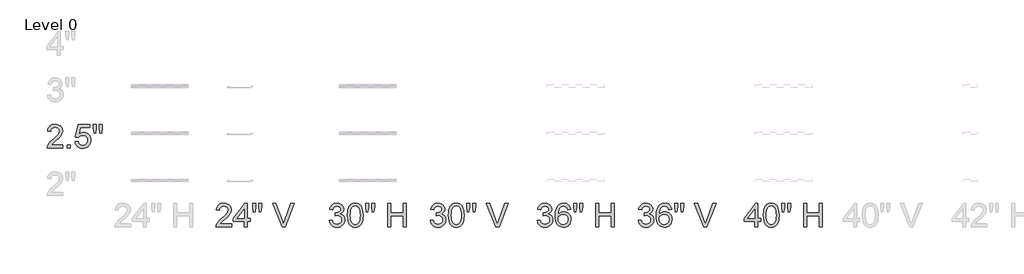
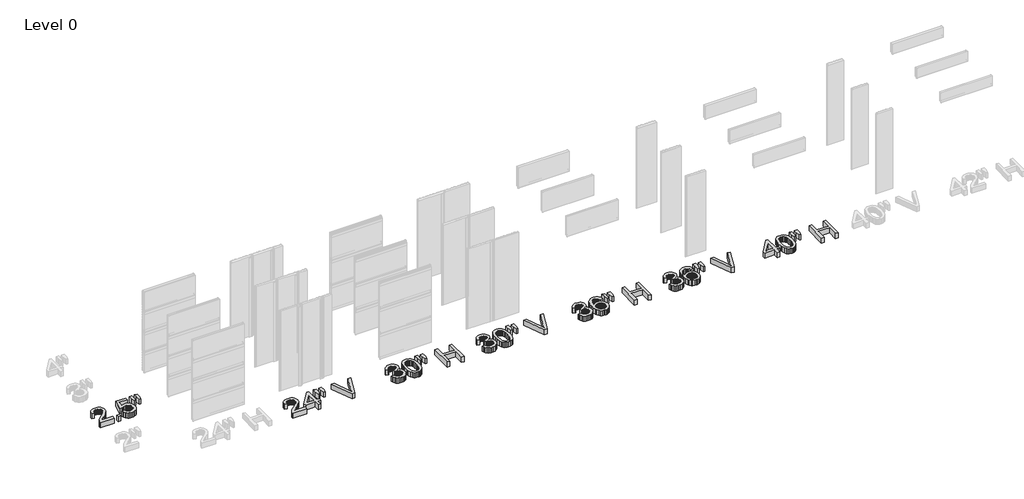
# One storey, part 3 of 5: 7 proxies.
"""IFC4 building model written with IfcOpenShell, lengths in millimetres."""

from ifc_helpers import new_model, si_unit, origin, origin_with_axes, place, context, project, spatial, polyline, outline, extrude, element, save

model = new_model("IFC4")

# Units and contexts
model_context = context("Model", 3, world=origin())
ifc_project = project(units=[si_unit("LENGTHUNIT", "METRE", prefix="MILLI")], contexts=[model_context])

# Site, building, storey
site = spatial("IfcSite", under=ifc_project)
building = spatial("IfcBuilding", under=site)
storey = spatial("IfcBuildingStorey", under=building, Name="Level 0", Elevation=0.0)

# Proxies
placement = place(None, origin())
element("IfcBuildingElementProxy", 1, Name="24\" Arial", ObjectType="24\" Arial", at=placement, inside=storey, context=model_context, shape_type="SweptSolid", body=[
    extrude(outline(polyline([(-32267.664642, 9328.081133), (-32267.664642, 9251.9393595), (-32667.408953, 9251.9393595), (-32665.735916, 9278.7451304), (-32659.2296609, 9304.4355432), (-32640.4544677, 9345.4621287), (-32612.9794821, 9385.2618204), (-32573.2355583, 9426.920442), (-32517.6535508, 9473.5238176), (-32435.488844, 9546.5054101), (-32386.1900199, 9600.377202), (-32371.8111963, 9622.3869334), (-32361.5406079, 9644.099236), (-32355.3782549, 9665.5141098), (-32353.3241372, 9686.6315548), (-32355.2620718, 9706.4988694), (-32361.0758754, 9724.7582095), (-32370.7655481, 9741.4095751), (-32384.3310899, 9756.4529662), (-32401.0196342, 9768.9124447), (-32420.0783142, 9777.8120722), (-32441.5071299, 9783.1518486), (-32465.3060815, 9784.9317741), (-32490.3784001, 9783.1936746), (-32512.8017434, 9777.9793759), (-32532.5761115, 9769.288878), (-32549.7015043, 9757.1221811), (-32563.5551802, 9741.8882496), (-32573.5143978, 9723.9960481), (-32579.579157, 9703.4455768), (-32581.7494578, 9680.2368355), (-32657.8912313, 9689.7545572), (-32651.3431503, 9729.0616324), (-32639.4320562, 9763.4053645), (-32622.157949, 9792.7857534), (-32599.5208288, 9817.2027992), (-32572.0411958, 9836.3962517), (-32540.2395505, 9850.1058605), (-32504.1158929, 9858.3316259), (-32463.6702231, 9861.0735476), (-32422.8620619, 9858.0249024), (-32386.5432167, 9848.8789667), (-32354.7136874, 9833.6357406), (-32327.3734742, 9812.295224), (-32305.4148634, 9786.4375074), (-32289.7301413, 9757.6426815), (-32280.3193081, 9725.9107461), (-32277.1823637, 9691.2417012), (-32280.5656164, 9654.8252622), (-32290.7153742, 9619.0408594), (-32308.7284061, 9582.6430096), (-32335.7014807, 9544.3862299), (-32378.698532, 9498.7123193), (-32444.7834941, 9440.0630773), (-32532.3762765, 9366.8212346), (-32566.7293032, 9328.081133), (-32267.664642, 9328.081133)])), origin_with_axes(), (0.0, 0.0, 1.0), 152.4),
    extrude(outline(polyline([(-32153.4519818, 9251.9393595), (-32153.4519818, 9328.081133), (-32077.3102082, 9328.081133), (-32077.3102082, 9251.9393595), (-32153.4519818, 9251.9393595)])), origin_with_axes(), (0.0, 0.0, 1.0), 152.4),
    extrude(outline(polyline([(-31953.5798263, 9413.7406282), (-31877.4380528, 9423.2583499), (-31871.7497269, 9398.7808889), (-31863.458899, 9377.5472608), (-31852.5655691, 9359.5574655), (-31839.0697372, 9344.8115032), (-31822.9992872, 9333.327963), (-31804.3821031, 9325.1254343), (-31783.2181848, 9320.2039171), (-31759.5075324, 9318.5634113), (-31730.5082242, 9320.8452479), (-31704.9293471, 9327.6907577), (-31682.7709013, 9339.0999407), (-31664.0328867, 9355.0727969), (-31649.1335627, 9374.819281), (-31638.4911883, 9397.5493478), (-31632.1057637, 9423.2629972), (-31629.9772888, 9451.9602294), (-31631.9709913, 9479.0820183), (-31637.9520986, 9503.1923407), (-31647.9206108, 9524.2911964), (-31661.8765279, 9542.3785854), (-31679.8663232, 9556.8875342), (-31701.9364698, 9567.2510691), (-31728.0869678, 9573.46919), (-31758.3178172, 9575.5418969), (-31795.2547567, 9572.2330015), (-31825.1649407, 9562.3063152), (-31849.0521914, 9547.1002677), (-31867.9203311, 9527.9532885), (-31944.0621046, 9537.4710102), (-31877.4380528, 9851.5558259), (-31582.3886804, 9851.5558259), (-31582.3886804, 9775.4140524), (-31815.8702906, 9775.4140524), (-31848.4387445, 9607.6642076), (-31821.5679111, 9626.9227226), (-31794.0464522, 9640.6788048), (-31765.8743678, 9648.932454), (-31737.0516578, 9651.6836705), (-31699.9706513, 9648.2725339), (-31665.9104061, 9638.0391241), (-31634.8709221, 9620.9834412), (-31606.8521994, 9597.1054851), (-31583.6574001, 9567.864516), (-31567.0896863, 9534.7197938), (-31557.1490581, 9497.6713185), (-31553.8355153, 9456.7190902), (-31556.819098, 9417.2725953), (-31565.769846, 9380.5773167), (-31580.6877594, 9346.6332546), (-31601.5728382, 9315.4404089), (-31633.2118271, 9283.4946965), (-31670.1301772, 9260.6763306), (-31712.3278886, 9246.985311), (-31759.8049612, 9242.4216378), (-31799.0980945, 9245.3540999), (-31834.5897159, 9254.1514862), (-31866.2798253, 9268.8137967), (-31894.1684229, 9289.3410315), (-31917.3725169, 9314.7107789), (-31935.0091154, 9343.9006275), (-31947.0782185, 9376.9105772), (-31953.5798263, 9413.7406282)])), origin_with_axes(), (0.0, 0.0, 1.0), 152.4),
    extrude(outline(polyline([(-31468.6221633, 9642.1659488), (-31487.2114635, 9759.7990403), (-31487.2114635, 9861.0735476), (-31411.06969, 9861.0735476), (-31411.06969, 9759.7990403), (-31427.7257029, 9642.1659488), (-31468.6221633, 9642.1659488)])), origin_with_axes(), (0.0, 0.0, 1.0), 152.4),
    extrude(outline(polyline([(-31316.7847595, 9642.1659488), (-31334.9279164, 9759.7990403), (-31334.9279164, 9861.0735476), (-31258.7861429, 9861.0735476), (-31258.7861429, 9759.7990403), (-31276.6318711, 9642.1659488), (-31316.7847595, 9642.1659488)])), origin_with_axes(), (0.0, 0.0, 1.0), 152.4),
])
element("IfcBuildingElementProxy", 2, Name="24\" Arial", ObjectType="24\" Arial", at=placement, inside=storey, context=model_context, shape_type="SweptSolid", body=[
    extrude(outline(polyline([(-27941.1205653, 7302.1451481), (-27941.1205653, 7226.0033745), (-28340.8648763, 7226.0033745), (-28339.1918393, 7252.8091454), (-28332.6855842, 7278.4995582), (-28313.910391, 7319.5261437), (-28286.4354054, 7359.3258354), (-28246.6914816, 7400.9844571), (-28191.1094741, 7447.5878326), (-28108.9447673, 7520.5694251), (-28059.6459432, 7574.441217), (-28045.2671195, 7596.4509484), (-28034.9965312, 7618.163251), (-28028.8341782, 7639.5781248), (-28026.7800605, 7660.6955698), (-28028.7179951, 7680.5628844), (-28034.5317987, 7698.8222245), (-28044.2214714, 7715.4735901), (-28057.7870132, 7730.5169813), (-28074.4755574, 7742.9764597), (-28093.5342374, 7751.8760872), (-28114.9630532, 7757.2158637), (-28138.7620048, 7758.9957892), (-28163.8343234, 7757.2576896), (-28186.2576667, 7752.0433909), (-28206.0320348, 7743.3528931), (-28223.1574276, 7731.1861961), (-28237.0111035, 7715.9522646), (-28246.9703211, 7698.0600632), (-28253.0350803, 7677.5095918), (-28255.2053811, 7654.3008506), (-28331.3471546, 7663.8185723), (-28324.7990736, 7703.1256475), (-28312.8879795, 7737.4693796), (-28295.6138723, 7766.8497685), (-28272.976752, 7791.2668143), (-28245.497119, 7810.4602667), (-28213.6954738, 7824.1698756), (-28177.5718162, 7832.3956409), (-28137.1261464, 7835.1375627), (-28096.3179851, 7832.0889174), (-28059.9991399, 7822.9429818), (-28028.1696107, 7807.6997556), (-28000.8293975, 7786.359239), (-27978.8707866, 7760.5015225), (-27963.1860646, 7731.7066965), (-27953.7752314, 7699.9747611), (-27950.638287, 7665.3057163), (-27954.0215396, 7628.8892772), (-27964.1712975, 7593.1048744), (-27982.1843294, 7556.7070247), (-28009.1574039, 7518.4502449), (-28052.1544553, 7472.7763344), (-28118.2394174, 7414.1270923), (-28205.8321998, 7340.8852496), (-28240.1852265, 7302.1451481), (-27941.1205653, 7302.1451481)])), origin_with_axes(), (0.0, 0.0, 1.0), 152.4),
    extrude(outline(polyline([(-27617.5180279, 7226.0033745), (-27617.5180279, 7368.7691999), (-27893.5319569, 7368.7691999), (-27893.5319569, 7444.9109734), (-27598.4825845, 7825.619841), (-27541.3762543, 7825.619841), (-27541.3762543, 7444.9109734), (-27465.2344808, 7444.9109734), (-27465.2344808, 7368.7691999), (-27541.3762543, 7368.7691999), (-27541.3762543, 7226.0033745), (-27617.5180279, 7226.0033745)]), holes=[polyline([(-27617.5180279, 7444.9109734), (-27617.5180279, 7680.1771564), (-27799.841884, 7444.9109734), (-27617.5180279, 7444.9109734)])]), origin_with_axes(), (0.0, 0.0, 1.0), 152.4),
    extrude(outline(polyline([(-27380.0211288, 7616.2299638), (-27398.610429, 7733.8630553), (-27398.610429, 7835.1375627), (-27322.4686555, 7835.1375627), (-27322.4686555, 7733.8630553), (-27339.1246684, 7616.2299638), (-27380.0211288, 7616.2299638)])), origin_with_axes(), (0.0, 0.0, 1.0), 152.4),
    extrude(outline(polyline([(-27228.183725, 7616.2299638), (-27246.326882, 7733.8630553), (-27246.326882, 7835.1375627), (-27170.1851084, 7835.1375627), (-27170.1851084, 7733.8630553), (-27188.0308366, 7616.2299638), (-27228.183725, 7616.2299638)])), origin_with_axes(), (0.0, 0.0, 1.0), 152.4),
    extrude(outline(polyline([(-26647.6027019, 7226.0033745), (-26890.0071762, 7835.1375627), (-26808.5116842, 7835.1375627), (-26646.2642723, 7396.2813641), (-26613.3983896, 7297.3862872), (-26580.9786501, 7396.2813641), (-26418.285095, 7835.1375627), (-26336.789603, 7835.1375627), (-26568.9327836, 7226.0033745), (-26647.6027019, 7226.0033745)])), origin_with_axes(), (0.0, 0.0, 1.0), 152.4),
])
element("IfcBuildingElementProxy", 3, Name="24\" Arial", ObjectType="24\" Arial", at=placement, inside=storey, context=model_context, shape_type="SweptSolid", body=[
    extrude(outline(polyline([(-25435.7471546, 7387.8046433), (-25359.6053811, 7397.322365), (-25342.5589928, 7349.4735063), (-25331.066158, 7331.3768226), (-25317.5935627, 7317.1653026), (-25301.8344834, 7306.4299817), (-25283.4821968, 7298.7618954), (-25262.5367029, 7294.1610436), (-25238.9980015, 7292.6274264), (-25211.4114801, 7294.7373119), (-25186.7992466, 7301.0669686), (-25165.1613012, 7311.6163965), (-25146.4976439, 7326.3855955), (-25131.4681947, 7344.2685023), (-25120.7328738, 7364.1590534), (-25114.2916813, 7386.057249), (-25112.1446171, 7409.9630891), (-25114.273092, 7432.7303345), (-25120.6585166, 7453.4434622), (-25131.300891, 7472.1024722), (-25146.2002151, 7488.7073646), (-25164.3805506, 7502.337969), (-25184.8659594, 7512.0741149), (-25207.6564414, 7517.9158025), (-25232.7519967, 7519.8630317), (-25256.8065511, 7517.7810301), (-25286.1404668, 7511.5350252), (-25277.6637459, 7587.6767987), (-25265.469165, 7586.7845123), (-25219.8510223, 7592.2497666), (-25179.0660978, 7608.6455293), (-25162.2799597, 7621.0445926), (-25150.2898611, 7636.3807652), (-25143.0958019, 7654.6540473), (-25140.6977822, 7675.8644388), (-25142.4358818, 7693.0827781), (-25147.6501805, 7708.7489108), (-25156.3406783, 7722.8628369), (-25168.5073753, 7735.4245565), (-25183.415994, 7745.7369708), (-25200.3322572, 7753.102981), (-25219.2561647, 7757.5225871), (-25240.1877167, 7758.9957892), (-25261.0635008, 7757.5086451), (-25280.1175335, 7753.0472131), (-25297.3498148, 7745.611493), (-25312.7603446, 7735.2014849), (-25325.9680424, 7721.8171888), (-25336.5918274, 7705.4586047), (-25344.6316998, 7686.1257325), (-25350.0876594, 7663.8185723), (-25426.2294329, 7673.336294), (-25417.2043277, 7709.6876704), (-25403.8107369, 7741.70774), (-25386.0486606, 7769.3965026), (-25363.9180987, 7792.7539583), (-25338.1161501, 7811.2967852), (-25309.3399134, 7824.5416616), (-25277.5893887, 7832.4885874), (-25242.864576, 7835.1375627), (-25194.997128, 7829.9139693), (-25151.0334331, 7814.2431893), (-25113.9663686, 7789.51942), (-25086.7888117, 7757.1368591), (-25070.1142094, 7719.8281337), (-25064.5560087, 7680.3258708), (-25069.8353699, 7643.5190565), (-25085.6734537, 7610.1326734), (-25111.8471883, 7581.6910441), (-25148.1335023, 7559.7184913), (-25122.7591075, 7551.7808601), (-25100.4705366, 7540.4599763), (-25081.2677895, 7525.7558399), (-25065.1508663, 7507.6684508), (-25052.3986064, 7486.6439523), (-25043.2898493, 7463.1284876), (-25037.824595, 7437.1220566), (-25036.0028436, 7408.6246595), (-25039.6463465, 7369.9960937), (-25050.576855, 7334.4161732), (-25068.7943691, 7301.8848979), (-25094.298889, 7272.4022678), (-25125.3709042, 7247.9387487), (-25160.2909046, 7230.4648066), (-25199.0588901, 7219.9804413), (-25241.6748608, 7216.4856528), (-25280.1918907, 7219.4692355), (-25315.2884894, 7228.4199836), (-25346.9646569, 7243.337897), (-25375.2203932, 7264.2229757), (-25398.9124563, 7289.848326), (-25416.8976042, 7318.987054), (-25429.175837, 7351.6391598), (-25435.7471546, 7387.8046433)])), origin_with_axes(), (0.0, 0.0, 1.0), 152.4),
    extrude(outline(polyline([(-24969.3787918, 7525.6628934), (-24963.7834124, 7623.1637728), (-24956.7891882, 7664.5110237), (-24946.9972744, 7700.9228154), (-24934.4494968, 7732.6965767), (-24919.1876813, 7760.1297365), (-24901.211828, 7783.2222946), (-24880.521937, 7801.9742512), (-24857.0482982, 7816.4831999), (-24830.7212018, 7826.8467348), (-24801.5406478, 7833.0648557), (-24769.5066363, 7835.1375627), (-24722.5872427, 7830.2299874), (-24680.5754243, 7815.5072617), (-24645.4416469, 7791.5456538), (-24619.1563765, 7758.921432), (-24599.3030039, 7717.9134358), (-24583.4649202, 7668.8005047), (-24573.0920907, 7606.4334026), (-24569.6344808, 7525.6628934), (-24575.1740923, 7428.7196929), (-24582.0986066, 7387.5118618), (-24591.7929266, 7351.1465433), (-24604.2431104, 7319.35884), (-24619.435216, 7291.8838544), (-24637.3692433, 7268.7215863), (-24658.0451925, 7249.872036), (-24681.5467152, 7235.2654933), (-24707.9574634, 7224.8322486), (-24737.2774371, 7218.5723018), (-24769.5066363, 7216.4856528), (-24811.4440975, 7220.1105664), (-24848.6226979, 7230.985307), (-24881.0424374, 7249.1098747), (-24908.703316, 7274.4842694), (-24935.2488367, 7320.3533676), (-24954.2099228, 7377.506171), (-24965.5865746, 7445.9426796), (-24969.3787918, 7525.6628934)]), holes=[polyline([(-24893.2370183, 7525.8116078), (-24891.0063023, 7459.6197572), (-24884.3141542, 7406.0407467), (-24873.1605741, 7365.0745765), (-24857.5455619, 7336.7212464), (-24838.658833, 7317.4302001), (-24817.6901024, 7303.6508814), (-24794.6393701, 7295.3832901), (-24769.5066363, 7292.6274264), (-24744.3739025, 7295.3925848), (-24721.3231703, 7303.68806), (-24700.3544397, 7317.513852), (-24681.4677107, 7336.8699608), (-24665.8526985, 7365.2697641), (-24654.6991184, 7406.2266397), (-24648.0069704, 7459.7405876), (-24645.7762543, 7525.8116078), (-24647.9326132, 7590.2514168), (-24654.4016896, 7642.8870203), (-24665.1834837, 7683.7184181), (-24680.2779955, 7712.7456103), (-24698.8487063, 7732.9800636), (-24720.0590978, 7747.4332444), (-24743.90917, 7756.105153), (-24770.3989227, 7758.9957892), (-24795.4015315, 7756.449055), (-24818.0618884, 7748.8088527), (-24838.3799935, 7736.075182), (-24856.3558467, 7718.2480432), (-24872.4913593, 7686.6462329), (-24884.0167254, 7644.0395569), (-24890.9319451, 7590.4280152), (-24893.2370183, 7525.8116078)])]), origin_with_axes(), (0.0, 0.0, 1.0), 152.4),
    extrude(outline(polyline([(-24484.4211288, 7616.2299638), (-24503.010429, 7733.8630553), (-24503.010429, 7835.1375627), (-24426.8686555, 7835.1375627), (-24426.8686555, 7733.8630553), (-24443.5246684, 7616.2299638), (-24484.4211288, 7616.2299638)])), origin_with_axes(), (0.0, 0.0, 1.0), 152.4),
    extrude(outline(polyline([(-24332.583725, 7616.2299638), (-24350.726882, 7733.8630553), (-24350.726882, 7835.1375627), (-24274.5851084, 7835.1375627), (-24274.5851084, 7733.8630553), (-24292.4308366, 7616.2299638), (-24332.583725, 7616.2299638)])), origin_with_axes(), (0.0, 0.0, 1.0), 152.4),
    extrude(outline(polyline([(-23931.9471276, 7226.0033745), (-23931.9471276, 7835.1375627), (-23855.8053541, 7835.1375627), (-23855.8053541, 7587.6767987), (-23532.2028167, 7587.6767987), (-23532.2028167, 7835.1375627), (-23456.0610431, 7835.1375627), (-23456.0610431, 7226.0033745), (-23532.2028167, 7226.0033745), (-23532.2028167, 7511.5350252), (-23855.8053541, 7511.5350252), (-23855.8053541, 7226.0033745), (-23931.9471276, 7226.0033745)])), origin_with_axes(), (0.0, 0.0, 1.0), 152.4),
])
element("IfcBuildingElementProxy", 4, Name="24\" Arial", ObjectType="24\" Arial", at=placement, inside=storey, context=model_context, shape_type="SweptSolid", body=[
    extrude(outline(polyline([(-22844.9471546, 7387.8046433), (-22768.8053811, 7397.322365), (-22751.7589928, 7349.4735063), (-22740.266158, 7331.3768226), (-22726.7935627, 7317.1653026), (-22711.0344834, 7306.4299817), (-22692.6821968, 7298.7618954), (-22671.7367029, 7294.1610436), (-22648.1980015, 7292.6274264), (-22620.6114801, 7294.7373119), (-22595.9992466, 7301.0669686), (-22574.3613012, 7311.6163965), (-22555.6976439, 7326.3855955), (-22540.6681947, 7344.2685023), (-22529.9328738, 7364.1590534), (-22523.4916813, 7386.057249), (-22521.3446171, 7409.9630891), (-22523.473092, 7432.7303345), (-22529.8585166, 7453.4434622), (-22540.500891, 7472.1024722), (-22555.4002151, 7488.7073646), (-22573.5805506, 7502.337969), (-22594.0659594, 7512.0741149), (-22616.8564414, 7517.9158025), (-22641.9519967, 7519.8630317), (-22666.0065511, 7517.7810301), (-22695.3404668, 7511.5350252), (-22686.8637459, 7587.6767987), (-22674.669165, 7586.7845123), (-22629.0510223, 7592.2497666), (-22588.2660978, 7608.6455293), (-22571.4799597, 7621.0445926), (-22559.4898611, 7636.3807652), (-22552.2958019, 7654.6540473), (-22549.8977822, 7675.8644388), (-22551.6358818, 7693.0827781), (-22556.8501805, 7708.7489108), (-22565.5406783, 7722.8628369), (-22577.7073753, 7735.4245565), (-22592.615994, 7745.7369708), (-22609.5322572, 7753.102981), (-22628.4561647, 7757.5225871), (-22649.3877167, 7758.9957892), (-22670.2635008, 7757.5086451), (-22689.3175335, 7753.0472131), (-22706.5498148, 7745.611493), (-22721.9603446, 7735.2014849), (-22735.1680424, 7721.8171888), (-22745.7918274, 7705.4586047), (-22753.8316998, 7686.1257325), (-22759.2876594, 7663.8185723), (-22835.4294329, 7673.336294), (-22826.4043277, 7709.6876704), (-22813.0107369, 7741.70774), (-22795.2486606, 7769.3965026), (-22773.1180987, 7792.7539583), (-22747.3161501, 7811.2967852), (-22718.5399134, 7824.5416616), (-22686.7893887, 7832.4885874), (-22652.064576, 7835.1375627), (-22604.197128, 7829.9139693), (-22560.2334331, 7814.2431893), (-22523.1663686, 7789.51942), (-22495.9888117, 7757.1368591), (-22479.3142094, 7719.8281337), (-22473.7560087, 7680.3258708), (-22479.0353699, 7643.5190565), (-22494.8734537, 7610.1326734), (-22521.0471883, 7581.6910441), (-22557.3335023, 7559.7184913), (-22531.9591075, 7551.7808601), (-22509.6705366, 7540.4599763), (-22490.4677895, 7525.7558399), (-22474.3508663, 7507.6684508), (-22461.5986064, 7486.6439523), (-22452.4898493, 7463.1284876), (-22447.024595, 7437.1220566), (-22445.2028436, 7408.6246595), (-22448.8463465, 7369.9960937), (-22459.776855, 7334.4161732), (-22477.9943691, 7301.8848979), (-22503.498889, 7272.4022678), (-22534.5709042, 7247.9387487), (-22569.4909046, 7230.4648066), (-22608.2588901, 7219.9804413), (-22650.8748608, 7216.4856528), (-22689.3918907, 7219.4692355), (-22724.4884894, 7228.4199836), (-22756.1646569, 7243.337897), (-22784.4203932, 7264.2229757), (-22808.1124563, 7289.848326), (-22826.0976042, 7318.987054), (-22838.375837, 7351.6391598), (-22844.9471546, 7387.8046433)])), origin_with_axes(), (0.0, 0.0, 1.0), 152.4),
    extrude(outline(polyline([(-22378.5787918, 7525.6628934), (-22372.9834124, 7623.1637728), (-22365.9891882, 7664.5110237), (-22356.1972744, 7700.9228154), (-22343.6494968, 7732.6965767), (-22328.3876813, 7760.1297365), (-22310.411828, 7783.2222946), (-22289.721937, 7801.9742512), (-22266.2482982, 7816.4831999), (-22239.9212018, 7826.8467348), (-22210.7406478, 7833.0648557), (-22178.7066363, 7835.1375627), (-22131.7872427, 7830.2299874), (-22089.7754243, 7815.5072617), (-22054.6416469, 7791.5456538), (-22028.3563765, 7758.921432), (-22008.5030039, 7717.9134358), (-21992.6649202, 7668.8005047), (-21982.2920907, 7606.4334026), (-21978.8344808, 7525.6628934), (-21984.3740923, 7428.7196929), (-21991.2986066, 7387.5118618), (-22000.9929266, 7351.1465433), (-22013.4431104, 7319.35884), (-22028.635216, 7291.8838544), (-22046.5692433, 7268.7215863), (-22067.2451925, 7249.872036), (-22090.7467152, 7235.2654933), (-22117.1574634, 7224.8322486), (-22146.4774371, 7218.5723018), (-22178.7066363, 7216.4856528), (-22220.6440975, 7220.1105664), (-22257.8226979, 7230.985307), (-22290.2424374, 7249.1098747), (-22317.903316, 7274.4842694), (-22344.4488367, 7320.3533676), (-22363.4099228, 7377.506171), (-22374.7865746, 7445.9426796), (-22378.5787918, 7525.6628934)]), holes=[polyline([(-22302.4370183, 7525.8116078), (-22300.2063023, 7459.6197572), (-22293.5141542, 7406.0407467), (-22282.3605741, 7365.0745765), (-22266.7455619, 7336.7212464), (-22247.858833, 7317.4302001), (-22226.8901024, 7303.6508814), (-22203.8393701, 7295.3832901), (-22178.7066363, 7292.6274264), (-22153.5739025, 7295.3925848), (-22130.5231703, 7303.68806), (-22109.5544397, 7317.513852), (-22090.6677107, 7336.8699608), (-22075.0526985, 7365.2697641), (-22063.8991184, 7406.2266397), (-22057.2069704, 7459.7405876), (-22054.9762543, 7525.8116078), (-22057.1326132, 7590.2514168), (-22063.6016896, 7642.8870203), (-22074.3834837, 7683.7184181), (-22089.4779955, 7712.7456103), (-22108.0487063, 7732.9800636), (-22129.2590978, 7747.4332444), (-22153.10917, 7756.105153), (-22179.5989227, 7758.9957892), (-22204.6015315, 7756.449055), (-22227.2618884, 7748.8088527), (-22247.5799935, 7736.075182), (-22265.5558467, 7718.2480432), (-22281.6913593, 7686.6462329), (-22293.2167254, 7644.0395569), (-22300.1319451, 7590.4280152), (-22302.4370183, 7525.8116078)])]), origin_with_axes(), (0.0, 0.0, 1.0), 152.4),
    extrude(outline(polyline([(-21893.6211288, 7616.2299638), (-21912.210429, 7733.8630553), (-21912.210429, 7835.1375627), (-21836.0686555, 7835.1375627), (-21836.0686555, 7733.8630553), (-21852.7246684, 7616.2299638), (-21893.6211288, 7616.2299638)])), origin_with_axes(), (0.0, 0.0, 1.0), 152.4),
    extrude(outline(polyline([(-21741.783725, 7616.2299638), (-21759.926882, 7733.8630553), (-21759.926882, 7835.1375627), (-21683.7851084, 7835.1375627), (-21683.7851084, 7733.8630553), (-21701.6308366, 7616.2299638), (-21741.783725, 7616.2299638)])), origin_with_axes(), (0.0, 0.0, 1.0), 152.4),
    extrude(outline(polyline([(-21161.2027019, 7226.0033745), (-21403.6071762, 7835.1375627), (-21322.1116842, 7835.1375627), (-21159.8642723, 7396.2813641), (-21126.9983896, 7297.3862872), (-21094.5786501, 7396.2813641), (-20931.885095, 7835.1375627), (-20850.389603, 7835.1375627), (-21082.5327836, 7226.0033745), (-21161.2027019, 7226.0033745)])), origin_with_axes(), (0.0, 0.0, 1.0), 152.4),
])
element("IfcBuildingElementProxy", 5, Name="24\" Arial", ObjectType="24\" Arial", at=placement, inside=storey, context=model_context, shape_type="SweptSolid", body=[
    extrude(outline(polyline([(-20101.7471546, 7387.8046433), (-20025.6053811, 7397.322365), (-20008.5589928, 7349.4735063), (-19997.066158, 7331.3768226), (-19983.5935627, 7317.1653026), (-19967.8344834, 7306.4299817), (-19949.4821968, 7298.7618954), (-19928.5367029, 7294.1610436), (-19904.9980015, 7292.6274264), (-19877.4114801, 7294.7373119), (-19852.7992466, 7301.0669686), (-19831.1613012, 7311.6163965), (-19812.4976439, 7326.3855955), (-19797.4681947, 7344.2685023), (-19786.7328738, 7364.1590534), (-19780.2916813, 7386.057249), (-19778.1446171, 7409.9630891), (-19780.273092, 7432.7303345), (-19786.6585166, 7453.4434622), (-19797.300891, 7472.1024722), (-19812.2002151, 7488.7073646), (-19830.3805506, 7502.337969), (-19850.8659594, 7512.0741149), (-19873.6564414, 7517.9158025), (-19898.7519967, 7519.8630317), (-19922.8065511, 7517.7810301), (-19952.1404668, 7511.5350252), (-19943.6637459, 7587.6767987), (-19931.469165, 7586.7845123), (-19885.8510223, 7592.2497666), (-19845.0660978, 7608.6455293), (-19828.2799597, 7621.0445926), (-19816.2898611, 7636.3807652), (-19809.0958019, 7654.6540473), (-19806.6977822, 7675.8644388), (-19808.4358818, 7693.0827781), (-19813.6501805, 7708.7489108), (-19822.3406783, 7722.8628369), (-19834.5073753, 7735.4245565), (-19849.415994, 7745.7369708), (-19866.3322572, 7753.102981), (-19885.2561647, 7757.5225871), (-19906.1877167, 7758.9957892), (-19927.0635008, 7757.5086451), (-19946.1175335, 7753.0472131), (-19963.3498148, 7745.611493), (-19978.7603446, 7735.2014849), (-19991.9680424, 7721.8171888), (-20002.5918274, 7705.4586047), (-20010.6316998, 7686.1257325), (-20016.0876594, 7663.8185723), (-20092.2294329, 7673.336294), (-20083.2043277, 7709.6876704), (-20069.8107369, 7741.70774), (-20052.0486606, 7769.3965026), (-20029.9180987, 7792.7539583), (-20004.1161501, 7811.2967852), (-19975.3399134, 7824.5416616), (-19943.5893887, 7832.4885874), (-19908.864576, 7835.1375627), (-19860.997128, 7829.9139693), (-19817.0334331, 7814.2431893), (-19779.9663686, 7789.51942), (-19752.7888117, 7757.1368591), (-19736.1142094, 7719.8281337), (-19730.5560087, 7680.3258708), (-19735.8353699, 7643.5190565), (-19751.6734537, 7610.1326734), (-19777.8471883, 7581.6910441), (-19814.1335023, 7559.7184913), (-19788.7591075, 7551.7808601), (-19766.4705366, 7540.4599763), (-19747.2677895, 7525.7558399), (-19731.1508663, 7507.6684508), (-19718.3986064, 7486.6439523), (-19709.2898493, 7463.1284876), (-19703.824595, 7437.1220566), (-19702.0028436, 7408.6246595), (-19705.6463465, 7369.9960937), (-19716.576855, 7334.4161732), (-19734.7943691, 7301.8848979), (-19760.298889, 7272.4022678), (-19791.3709042, 7247.9387487), (-19826.2909046, 7230.4648066), (-19865.0588901, 7219.9804413), (-19907.6748608, 7216.4856528), (-19946.1918907, 7219.4692355), (-19981.2884894, 7228.4199836), (-20012.9646569, 7243.337897), (-20041.2203932, 7264.2229757), (-20064.9124563, 7289.848326), (-20082.8976042, 7318.987054), (-20095.175837, 7351.6391598), (-20101.7471546, 7387.8046433)])), origin_with_axes(), (0.0, 0.0, 1.0), 152.4),
    extrude(outline(polyline([(-19245.1522025, 7673.336294), (-19321.293976, 7663.8185723), (-19333.5629141, 7701.5548516), (-19350.1445699, 7727.3196217), (-19366.5124487, 7741.1779449), (-19384.6834896, 7751.0767473), (-19404.6576927, 7757.0160287), (-19426.4350578, 7758.9957892), (-19461.8290854, 7754.3856427), (-19495.1411113, 7740.5552034), (-19523.7500442, 7711.42577), (-19547.1167946, 7671.3286495), (-19556.2487883, 7645.7544198), (-19562.8991104, 7614.6126947), (-19568.75474, 7535.6267583), (-19538.2125198, 7571.2624467), (-19501.6101877, 7596.3765912), (-19460.9925668, 7611.2666207), (-19418.4044801, 7616.2299638), (-19381.8207374, 7612.8374165), (-19348.0625683, 7602.6597747), (-19317.1299728, 7585.6970383), (-19289.0229509, 7561.9492073), (-19265.6654953, 7532.8290686), (-19248.9815984, 7499.7494089), (-19238.9712602, 7462.7102283), (-19235.6344808, 7421.7115268), (-19237.2052767, 7393.9530543), (-19241.9176643, 7367.1891094), (-19249.7716436, 7341.419692), (-19260.7672147, 7316.6448022), (-19274.5140021, 7293.7892576), (-19290.6216307, 7273.777876), (-19309.0901005, 7256.6106573), (-19329.9194113, 7242.2876015), (-19352.6634201, 7230.999249), (-19376.8759836, 7222.93614), (-19402.5571017, 7218.0982746), (-19429.7067747, 7216.4856528), (-19475.0971984, 7220.7611919), (-19516.0912526, 7233.587809), (-19552.6889373, 7254.9655042), (-19584.8902525, 7284.8942775), (-19611.1429917, 7324.6382013), (-19629.8949482, 7375.4613479), (-19641.1461222, 7437.3637175), (-19644.8965135, 7510.34531), (-19640.7325102, 7592.1661147), (-19628.2405005, 7661.9968208), (-19607.4204843, 7719.8374283), (-19593.8874738, 7744.2614451), (-19578.2724617, 7765.6879372), (-19546.679946, 7796.0721484), (-19510.04973, 7817.7751563), (-19468.3818137, 7830.7969611), (-19421.676197, 7835.1375627), (-19386.6074822, 7832.4514088), (-19354.8662521, 7824.3929472), (-19326.4525068, 7810.9621778), (-19301.3662462, 7792.1591007), (-19280.2859798, 7768.615752), (-19263.8902171, 7740.964168), (-19252.178958, 7709.2043486), (-19245.1522025, 7673.336294)]), holes=[polyline([(-19568.75474, 7422.901242), (-19564.3490758, 7389.1616622), (-19551.1320834, 7356.946405), (-19530.609496, 7329.2483477), (-19504.287047, 7309.0603677), (-19472.517933, 7296.7356617), (-19435.6553507, 7292.6274264), (-19409.1888346, 7294.7559012), (-19385.4084723, 7301.1413258), (-19364.314264, 7311.7837002), (-19345.9062095, 7326.6830243), (-19330.9743541, 7345.2351459), (-19320.3087431, 7366.8359127), (-19313.9093765, 7391.4853247), (-19311.7762543, 7419.183382), (-19313.8814926, 7445.7986125), (-19320.1972073, 7469.4302603), (-19330.7233985, 7490.0783255), (-19345.4600663, 7507.742808), (-19363.9238887, 7521.8939127), (-19385.6315439, 7532.0018447), (-19410.5830321, 7538.0666039), (-19438.7783531, 7540.0881903), (-19464.8916726, 7538.0666039), (-19488.9508743, 7532.0018447), (-19510.9559584, 7521.8939127), (-19530.9069248, 7507.742808), (-19547.4653439, 7490.3106918), (-19559.2927862, 7470.3597253), (-19566.3892515, 7447.8899088), (-19568.75474, 7422.901242)])]), origin_with_axes(), (0.0, 0.0, 1.0), 152.4),
    extrude(outline(polyline([(-19150.4211288, 7616.2299638), (-19169.010429, 7733.8630553), (-19169.010429, 7835.1375627), (-19092.8686555, 7835.1375627), (-19092.8686555, 7733.8630553), (-19109.5246684, 7616.2299638), (-19150.4211288, 7616.2299638)])), origin_with_axes(), (0.0, 0.0, 1.0), 152.4),
    extrude(outline(polyline([(-18998.583725, 7616.2299638), (-19016.726882, 7733.8630553), (-19016.726882, 7835.1375627), (-18940.5851084, 7835.1375627), (-18940.5851084, 7733.8630553), (-18958.4308366, 7616.2299638), (-18998.583725, 7616.2299638)])), origin_with_axes(), (0.0, 0.0, 1.0), 152.4),
    extrude(outline(polyline([(-18597.9471276, 7226.0033745), (-18597.9471276, 7835.1375627), (-18521.8053541, 7835.1375627), (-18521.8053541, 7587.6767987), (-18198.2028167, 7587.6767987), (-18198.2028167, 7835.1375627), (-18122.0610431, 7835.1375627), (-18122.0610431, 7226.0033745), (-18198.2028167, 7226.0033745), (-18198.2028167, 7511.5350252), (-18521.8053541, 7511.5350252), (-18521.8053541, 7226.0033745), (-18597.9471276, 7226.0033745)])), origin_with_axes(), (0.0, 0.0, 1.0), 152.4),
])
element("IfcBuildingElementProxy", 6, Name="24\" Arial", ObjectType="24\" Arial", at=placement, inside=storey, context=model_context, shape_type="SweptSolid", body=[
    extrude(outline(polyline([(-17510.9471546, 7387.8046433), (-17434.8053811, 7397.322365), (-17417.7589928, 7349.4735063), (-17406.266158, 7331.3768226), (-17392.7935627, 7317.1653026), (-17377.0344834, 7306.4299817), (-17358.6821968, 7298.7618954), (-17337.7367029, 7294.1610436), (-17314.1980015, 7292.6274264), (-17286.6114801, 7294.7373119), (-17261.9992466, 7301.0669686), (-17240.3613012, 7311.6163965), (-17221.6976439, 7326.3855955), (-17206.6681947, 7344.2685023), (-17195.9328738, 7364.1590534), (-17189.4916813, 7386.057249), (-17187.3446171, 7409.9630891), (-17189.473092, 7432.7303345), (-17195.8585166, 7453.4434622), (-17206.500891, 7472.1024722), (-17221.4002151, 7488.7073646), (-17239.5805506, 7502.337969), (-17260.0659594, 7512.0741149), (-17282.8564414, 7517.9158025), (-17307.9519967, 7519.8630317), (-17332.0065511, 7517.7810301), (-17361.3404668, 7511.5350252), (-17352.8637459, 7587.6767987), (-17340.669165, 7586.7845123), (-17295.0510223, 7592.2497666), (-17254.2660978, 7608.6455293), (-17237.4799597, 7621.0445926), (-17225.4898611, 7636.3807652), (-17218.2958019, 7654.6540473), (-17215.8977822, 7675.8644388), (-17217.6358818, 7693.0827781), (-17222.8501805, 7708.7489108), (-17231.5406783, 7722.8628369), (-17243.7073753, 7735.4245565), (-17258.615994, 7745.7369708), (-17275.5322572, 7753.102981), (-17294.4561647, 7757.5225871), (-17315.3877167, 7758.9957892), (-17336.2635008, 7757.5086451), (-17355.3175335, 7753.0472131), (-17372.5498148, 7745.611493), (-17387.9603446, 7735.2014849), (-17401.1680424, 7721.8171888), (-17411.7918274, 7705.4586047), (-17419.8316998, 7686.1257325), (-17425.2876594, 7663.8185723), (-17501.4294329, 7673.336294), (-17492.4043277, 7709.6876704), (-17479.0107369, 7741.70774), (-17461.2486606, 7769.3965026), (-17439.1180987, 7792.7539583), (-17413.3161501, 7811.2967852), (-17384.5399134, 7824.5416616), (-17352.7893887, 7832.4885874), (-17318.064576, 7835.1375627), (-17270.197128, 7829.9139693), (-17226.2334331, 7814.2431893), (-17189.1663686, 7789.51942), (-17161.9888117, 7757.1368591), (-17145.3142094, 7719.8281337), (-17139.7560087, 7680.3258708), (-17145.0353699, 7643.5190565), (-17160.8734537, 7610.1326734), (-17187.0471883, 7581.6910441), (-17223.3335023, 7559.7184913), (-17197.9591075, 7551.7808601), (-17175.6705366, 7540.4599763), (-17156.4677895, 7525.7558399), (-17140.3508663, 7507.6684508), (-17127.5986064, 7486.6439523), (-17118.4898493, 7463.1284876), (-17113.024595, 7437.1220566), (-17111.2028436, 7408.6246595), (-17114.8463465, 7369.9960937), (-17125.776855, 7334.4161732), (-17143.9943691, 7301.8848979), (-17169.498889, 7272.4022678), (-17200.5709042, 7247.9387487), (-17235.4909046, 7230.4648066), (-17274.2588901, 7219.9804413), (-17316.8748608, 7216.4856528), (-17355.3918907, 7219.4692355), (-17390.4884894, 7228.4199836), (-17422.1646569, 7243.337897), (-17450.4203932, 7264.2229757), (-17474.1124563, 7289.848326), (-17492.0976042, 7318.987054), (-17504.375837, 7351.6391598), (-17510.9471546, 7387.8046433)])), origin_with_axes(), (0.0, 0.0, 1.0), 152.4),
    extrude(outline(polyline([(-16654.3522025, 7673.336294), (-16730.493976, 7663.8185723), (-16742.7629141, 7701.5548516), (-16759.3445699, 7727.3196217), (-16775.7124487, 7741.1779449), (-16793.8834896, 7751.0767473), (-16813.8576927, 7757.0160287), (-16835.6350578, 7758.9957892), (-16871.0290854, 7754.3856427), (-16904.3411113, 7740.5552034), (-16932.9500442, 7711.42577), (-16956.3167946, 7671.3286495), (-16965.4487883, 7645.7544198), (-16972.0991104, 7614.6126947), (-16977.95474, 7535.6267583), (-16947.4125198, 7571.2624467), (-16910.8101877, 7596.3765912), (-16870.1925668, 7611.2666207), (-16827.6044801, 7616.2299638), (-16791.0207374, 7612.8374165), (-16757.2625683, 7602.6597747), (-16726.3299728, 7585.6970383), (-16698.2229509, 7561.9492073), (-16674.8654953, 7532.8290686), (-16658.1815984, 7499.7494089), (-16648.1712602, 7462.7102283), (-16644.8344808, 7421.7115268), (-16646.4052767, 7393.9530543), (-16651.1176643, 7367.1891094), (-16658.9716436, 7341.419692), (-16669.9672147, 7316.6448022), (-16683.7140021, 7293.7892576), (-16699.8216307, 7273.777876), (-16718.2901005, 7256.6106573), (-16739.1194113, 7242.2876015), (-16761.8634201, 7230.999249), (-16786.0759836, 7222.93614), (-16811.7571017, 7218.0982746), (-16838.9067747, 7216.4856528), (-16884.2971984, 7220.7611919), (-16925.2912526, 7233.587809), (-16961.8889373, 7254.9655042), (-16994.0902525, 7284.8942775), (-17020.3429917, 7324.6382013), (-17039.0949482, 7375.4613479), (-17050.3461222, 7437.3637175), (-17054.0965135, 7510.34531), (-17049.9325102, 7592.1661147), (-17037.4405005, 7661.9968208), (-17016.6204843, 7719.8374283), (-17003.0874738, 7744.2614451), (-16987.4724617, 7765.6879372), (-16955.879946, 7796.0721484), (-16919.24973, 7817.7751563), (-16877.5818137, 7830.7969611), (-16830.876197, 7835.1375627), (-16795.8074822, 7832.4514088), (-16764.0662521, 7824.3929472), (-16735.6525068, 7810.9621778), (-16710.5662462, 7792.1591007), (-16689.4859798, 7768.615752), (-16673.0902171, 7740.964168), (-16661.378958, 7709.2043486), (-16654.3522025, 7673.336294)]), holes=[polyline([(-16977.95474, 7422.901242), (-16973.5490758, 7389.1616622), (-16960.3320834, 7356.946405), (-16939.809496, 7329.2483477), (-16913.487047, 7309.0603677), (-16881.717933, 7296.7356617), (-16844.8553507, 7292.6274264), (-16818.3888346, 7294.7559012), (-16794.6084723, 7301.1413258), (-16773.514264, 7311.7837002), (-16755.1062095, 7326.6830243), (-16740.1743541, 7345.2351459), (-16729.5087431, 7366.8359127), (-16723.1093765, 7391.4853247), (-16720.9762543, 7419.183382), (-16723.0814926, 7445.7986125), (-16729.3972073, 7469.4302603), (-16739.9233985, 7490.0783255), (-16754.6600663, 7507.742808), (-16773.1238887, 7521.8939127), (-16794.8315439, 7532.0018447), (-16819.7830321, 7538.0666039), (-16847.9783531, 7540.0881903), (-16874.0916726, 7538.0666039), (-16898.1508743, 7532.0018447), (-16920.1559584, 7521.8939127), (-16940.1069248, 7507.742808), (-16956.6653439, 7490.3106918), (-16968.4927862, 7470.3597253), (-16975.5892515, 7447.8899088), (-16977.95474, 7422.901242)])]), origin_with_axes(), (0.0, 0.0, 1.0), 152.4),
    extrude(outline(polyline([(-16559.6211288, 7616.2299638), (-16578.210429, 7733.8630553), (-16578.210429, 7835.1375627), (-16502.0686555, 7835.1375627), (-16502.0686555, 7733.8630553), (-16518.7246684, 7616.2299638), (-16559.6211288, 7616.2299638)])), origin_with_axes(), (0.0, 0.0, 1.0), 152.4),
    extrude(outline(polyline([(-16407.783725, 7616.2299638), (-16425.926882, 7733.8630553), (-16425.926882, 7835.1375627), (-16349.7851084, 7835.1375627), (-16349.7851084, 7733.8630553), (-16367.6308366, 7616.2299638), (-16407.783725, 7616.2299638)])), origin_with_axes(), (0.0, 0.0, 1.0), 152.4),
    extrude(outline(polyline([(-15827.2027019, 7226.0033745), (-16069.6071762, 7835.1375627), (-15988.1116842, 7835.1375627), (-15825.8642723, 7396.2813641), (-15792.9983896, 7297.3862872), (-15760.5786501, 7396.2813641), (-15597.885095, 7835.1375627), (-15516.389603, 7835.1375627), (-15748.5327836, 7226.0033745), (-15827.2027019, 7226.0033745)])), origin_with_axes(), (0.0, 0.0, 1.0), 152.4),
])
element("IfcBuildingElementProxy", 7, Name="24\" Arial", ObjectType="24\" Arial", at=placement, inside=storey, context=model_context, shape_type="SweptSolid", body=[
    extrude(outline(polyline([(-14520.2863907, 7226.0033745), (-14520.2863907, 7368.7691999), (-14796.3003197, 7368.7691999), (-14796.3003197, 7444.9109734), (-14501.2509473, 7825.619841), (-14444.1446171, 7825.619841), (-14444.1446171, 7444.9109734), (-14368.0028436, 7444.9109734), (-14368.0028436, 7368.7691999), (-14444.1446171, 7368.7691999), (-14444.1446171, 7226.0033745), (-14520.2863907, 7226.0033745)]), holes=[polyline([(-14520.2863907, 7444.9109734), (-14520.2863907, 7680.1771564), (-14702.6102468, 7444.9109734), (-14520.2863907, 7444.9109734)])]), origin_with_axes(), (0.0, 0.0, 1.0), 152.4),
    extrude(outline(polyline([(-14301.3787918, 7525.6628934), (-14295.7834124, 7623.1637728), (-14288.7891882, 7664.5110237), (-14278.9972744, 7700.9228154), (-14266.4494968, 7732.6965767), (-14251.1876813, 7760.1297365), (-14233.211828, 7783.2222946), (-14212.521937, 7801.9742512), (-14189.0482982, 7816.4831999), (-14162.7212018, 7826.8467348), (-14133.5406478, 7833.0648557), (-14101.5066363, 7835.1375627), (-14054.5872427, 7830.2299874), (-14012.5754243, 7815.5072617), (-13977.4416469, 7791.5456538), (-13951.1563765, 7758.921432), (-13931.3030039, 7717.9134358), (-13915.4649202, 7668.8005047), (-13905.0920907, 7606.4334026), (-13901.6344808, 7525.6628934), (-13907.1740923, 7428.7196929), (-13914.0986066, 7387.5118618), (-13923.7929266, 7351.1465433), (-13936.2431104, 7319.35884), (-13951.435216, 7291.8838544), (-13969.3692433, 7268.7215863), (-13990.0451925, 7249.872036), (-14013.5467152, 7235.2654933), (-14039.9574634, 7224.8322486), (-14069.2774371, 7218.5723018), (-14101.5066363, 7216.4856528), (-14143.4440975, 7220.1105664), (-14180.6226979, 7230.985307), (-14213.0424374, 7249.1098747), (-14240.703316, 7274.4842694), (-14267.2488367, 7320.3533676), (-14286.2099228, 7377.506171), (-14297.5865746, 7445.9426796), (-14301.3787918, 7525.6628934)]), holes=[polyline([(-14225.2370183, 7525.8116078), (-14223.0063023, 7459.6197572), (-14216.3141542, 7406.0407467), (-14205.1605741, 7365.0745765), (-14189.5455619, 7336.7212464), (-14170.658833, 7317.4302001), (-14149.6901024, 7303.6508814), (-14126.6393701, 7295.3832901), (-14101.5066363, 7292.6274264), (-14076.3739025, 7295.3925848), (-14053.3231703, 7303.68806), (-14032.3544397, 7317.513852), (-14013.4677107, 7336.8699608), (-13997.8526985, 7365.2697641), (-13986.6991184, 7406.2266397), (-13980.0069704, 7459.7405876), (-13977.7762543, 7525.8116078), (-13979.9326132, 7590.2514168), (-13986.4016896, 7642.8870203), (-13997.1834837, 7683.7184181), (-14012.2779955, 7712.7456103), (-14030.8487063, 7732.9800636), (-14052.0590978, 7747.4332444), (-14075.90917, 7756.105153), (-14102.3989227, 7758.9957892), (-14127.4015315, 7756.449055), (-14150.0618884, 7748.8088527), (-14170.3799935, 7736.075182), (-14188.3558467, 7718.2480432), (-14204.4913593, 7686.6462329), (-14216.0167254, 7644.0395569), (-14222.9319451, 7590.4280152), (-14225.2370183, 7525.8116078)])]), origin_with_axes(), (0.0, 0.0, 1.0), 152.4),
    extrude(outline(polyline([(-13816.4211288, 7616.2299638), (-13835.010429, 7733.8630553), (-13835.010429, 7835.1375627), (-13758.8686555, 7835.1375627), (-13758.8686555, 7733.8630553), (-13775.5246684, 7616.2299638), (-13816.4211288, 7616.2299638)])), origin_with_axes(), (0.0, 0.0, 1.0), 152.4),
    extrude(outline(polyline([(-13664.583725, 7616.2299638), (-13682.726882, 7733.8630553), (-13682.726882, 7835.1375627), (-13606.5851084, 7835.1375627), (-13606.5851084, 7733.8630553), (-13624.4308366, 7616.2299638), (-13664.583725, 7616.2299638)])), origin_with_axes(), (0.0, 0.0, 1.0), 152.4),
    extrude(outline(polyline([(-13263.9471276, 7226.0033745), (-13263.9471276, 7835.1375627), (-13187.8053541, 7835.1375627), (-13187.8053541, 7587.6767987), (-12864.2028167, 7587.6767987), (-12864.2028167, 7835.1375627), (-12788.0610431, 7835.1375627), (-12788.0610431, 7226.0033745), (-12864.2028167, 7226.0033745), (-12864.2028167, 7511.5350252), (-13187.8053541, 7511.5350252), (-13187.8053541, 7226.0033745), (-13263.9471276, 7226.0033745)])), origin_with_axes(), (0.0, 0.0, 1.0), 152.4),
])

save(model, "model.ifc")
